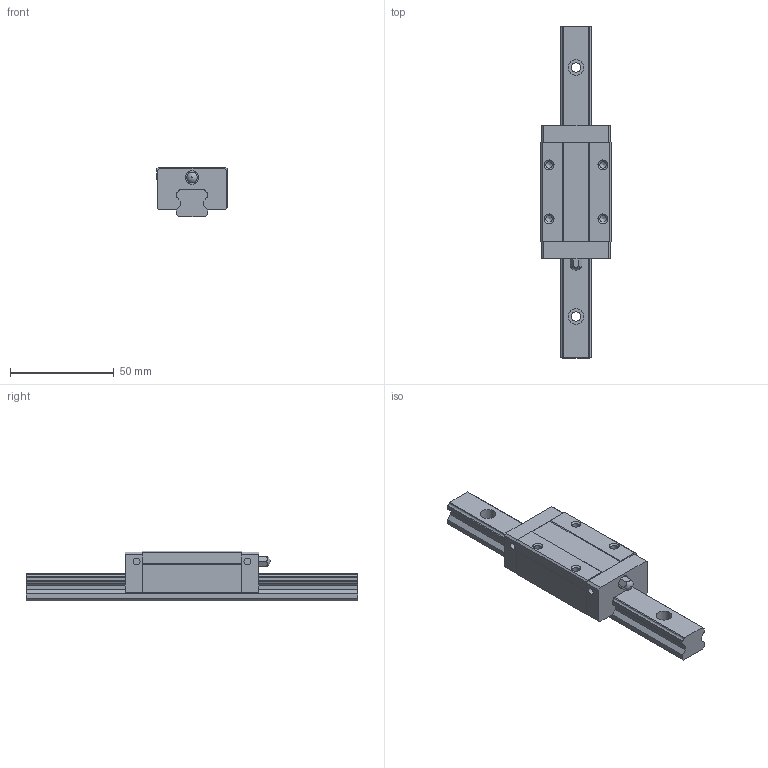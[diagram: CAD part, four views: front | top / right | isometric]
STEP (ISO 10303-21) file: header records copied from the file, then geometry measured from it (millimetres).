
FILE_DESCRIPTION(/* description */ (''),/* implementation_level */ '2;1');
FILE_NAME(/* name */ 'SME15-SB',/* time_stamp */ '2009-06-12T14:19:23+08:00',/* author */ (''),/* organization */ (''),/* preprocessor_version */ 'ST-DEVELOPER v11',/* originating_system */ 'UGS - NX 5.0',/* authorisation */ '');
FILE_SCHEMA (('CONFIG_CONTROL_DESIGN'));
Length unit declared in the file: millimetre
Products named in the file (1): jill3C1A425o
Bounding box: 34 x 160 x 24 mm (x, y, z)
Volume: 62187.5 mm3; surface area: 20194.7 mm2
Topology: 2 solids, 3 shells, 132 faces, 354 edges, 236 vertices
Faces by surface type: plane 76, cylinder 44, cone 8, sphere 2, bspline 2
Full cylindrical faces by diameter (mm): 3.3 x8, 4 x7, 4.5 x3, 6.5 x2, 7.5 x3
Entity records: 5505 total; most frequent: CARTESIAN_POINT 2422, DIRECTION 617, ORIENTED_EDGE 580, EDGE_CURVE 290, AXIS2_PLACEMENT_3D 211, VERTEX_POINT 210, LINE 195, VECTOR 195
